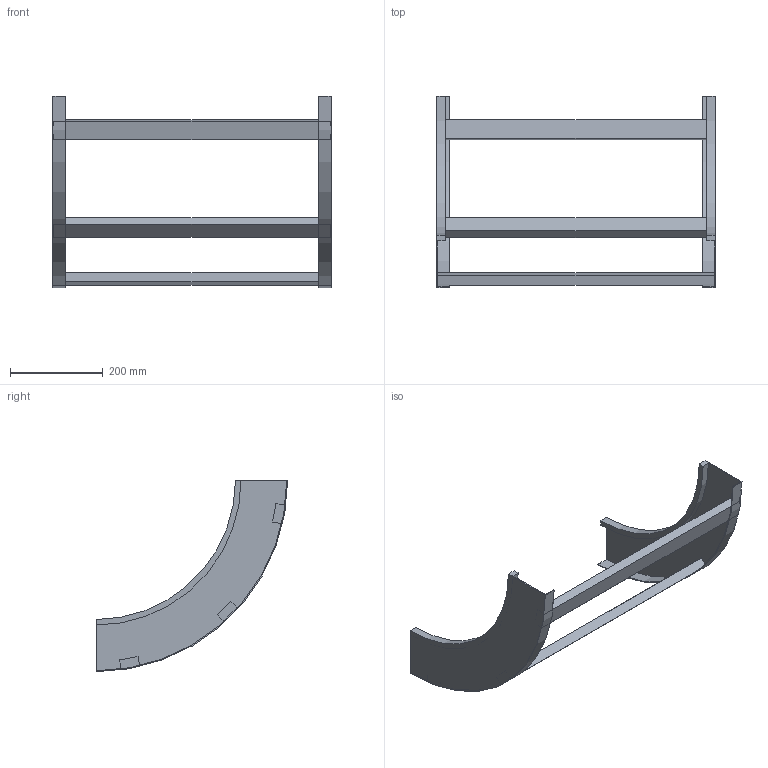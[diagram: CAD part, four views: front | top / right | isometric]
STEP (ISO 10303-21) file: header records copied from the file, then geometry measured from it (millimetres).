
FILE_DESCRIPTION (( 'STEP AP214' ), '1' );
FILE_NAME ('B2X30B3J600XX.step', '2025-03-20T10:22:54', ( '' ), ( '' ), 'SwSTEP 2.0', 'SolidWorks 2023', '' );
FILE_SCHEMA (( 'AUTOMOTIVE_DESIGN' ));
Length unit declared in the file: millimetre
Products named in the file (3): B2_LONGH.SALITA_90°_H112.5_R300; TRAVERSINO_600; B2X30B3J600XX
Assembly tree (5 placements, depth 2):
  B2X30B3J600XX
    B2_LONGH.SALITA_90°_H112.5_R300  x2
    TRAVERSINO_600  x3
Bounding box: 600 x 412.5 x 412.5 mm (x, y, z)
Volume: 1949311.4 mm3; surface area: 574771.8 mm2
Topology: 5 solids, 5 shells, 38 faces, 84 edges, 56 vertices
Faces by surface type: plane 30, cylinder 8
Entity records: 560 total; most frequent: DIRECTION 92, CARTESIAN_POINT 84, ORIENTED_EDGE 72, EDGE_CURVE 36, AXIS2_PLACEMENT_3D 32, LINE 28, VECTOR 28, VERTEX_POINT 24
